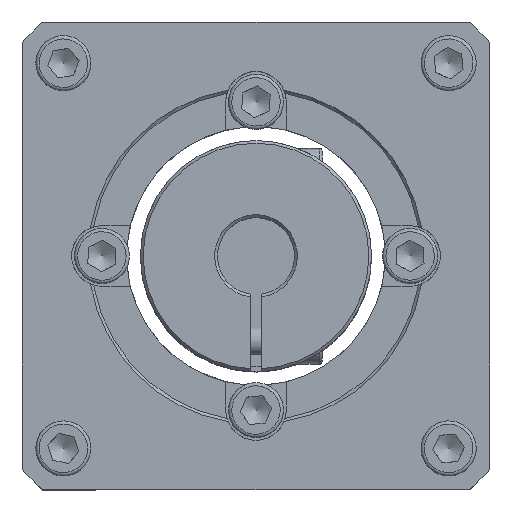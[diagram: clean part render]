
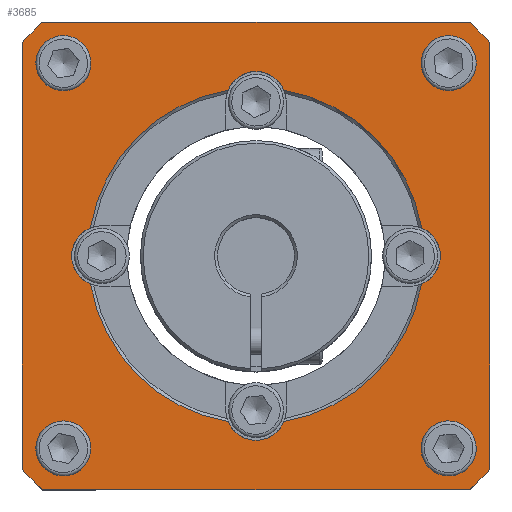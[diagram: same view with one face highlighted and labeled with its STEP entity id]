
A CAD part, top view. The second image highlights one B-rep face of the part: STEP entity #3685.
In plain terms, the highlighted planar face has unit normal (0, 0, 1).
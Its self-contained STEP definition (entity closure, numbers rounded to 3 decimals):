
#212=PLANE('',#4075);
#391=LINE('',#6323,#601);
#392=LINE('',#6325,#602);
#393=LINE('',#6326,#603);
#394=LINE('',#6327,#604);
#601=VECTOR('',#4991,77.46);
#602=VECTOR('',#4994,77.46);
#603=VECTOR('',#4995,77.46);
#604=VECTOR('',#4996,77.46);
#767=FACE_BOUND('',#1343,.T.);
#768=FACE_BOUND('',#1344,.T.);
#769=FACE_BOUND('',#1345,.T.);
#770=FACE_BOUND('',#1346,.T.);
#771=FACE_BOUND('',#1347,.T.);
#1039=FACE_OUTER_BOUND('',#1342,.T.);
#1342=EDGE_LOOP('',(#3144,#3145,#3146,#3147,#3148,#3149,#3150,#3151));
#1343=EDGE_LOOP('',(#3152,#3153,#3154,#3155,#3156,#3157,#3158,#3159));
#1344=EDGE_LOOP('',(#3160));
#1345=EDGE_LOOP('',(#3161));
#1346=EDGE_LOOP('',(#3162));
#1347=EDGE_LOOP('',(#3163));
#1596=CIRCLE('',#4064,57.5);
#1598=CIRCLE('',#4067,57.5);
#1600=CIRCLE('',#4070,57.5);
#1602=CIRCLE('',#4073,57.5);
#1603=CIRCLE('',#4076,30.5);
#1604=CIRCLE('',#4077,5.5);
#1605=CIRCLE('',#4078,30.5);
#1606=CIRCLE('',#4079,5.5);
#1607=CIRCLE('',#4080,30.5);
#1608=CIRCLE('',#4081,5.5);
#1609=CIRCLE('',#4082,30.5);
#1610=CIRCLE('',#4083,5.5);
#1611=CIRCLE('',#4084,2.459);
#1612=CIRCLE('',#4085,2.459);
#1613=CIRCLE('',#4086,2.459);
#1614=CIRCLE('',#4087,2.459);
#1894=VERTEX_POINT('',#6289);
#1895=VERTEX_POINT('',#6291);
#1898=VERTEX_POINT('',#6298);
#1899=VERTEX_POINT('',#6300);
#1902=VERTEX_POINT('',#6307);
#1903=VERTEX_POINT('',#6309);
#1906=VERTEX_POINT('',#6316);
#1907=VERTEX_POINT('',#6318);
#1908=VERTEX_POINT('',#6328);
#1909=VERTEX_POINT('',#6329);
#1910=VERTEX_POINT('',#6331);
#1911=VERTEX_POINT('',#6333);
#1912=VERTEX_POINT('',#6335);
#1913=VERTEX_POINT('',#6337);
#1914=VERTEX_POINT('',#6339);
#1915=VERTEX_POINT('',#6341);
#1916=VERTEX_POINT('',#6344);
#1917=VERTEX_POINT('',#6346);
#1918=VERTEX_POINT('',#6348);
#1919=VERTEX_POINT('',#6350);
#2332=EDGE_CURVE('',#1895,#1894,#1596,.T.);
#2336=EDGE_CURVE('',#1899,#1898,#1598,.T.);
#2340=EDGE_CURVE('',#1903,#1902,#1600,.T.);
#2344=EDGE_CURVE('',#1907,#1906,#1602,.T.);
#2347=EDGE_CURVE('',#1907,#1894,#391,.T.);
#2348=EDGE_CURVE('',#1903,#1906,#392,.T.);
#2349=EDGE_CURVE('',#1899,#1902,#393,.T.);
#2350=EDGE_CURVE('',#1895,#1898,#394,.T.);
#2351=EDGE_CURVE('',#1908,#1909,#1603,.T.);
#2352=EDGE_CURVE('',#1908,#1910,#1604,.T.);
#2353=EDGE_CURVE('',#1911,#1910,#1605,.T.);
#2354=EDGE_CURVE('',#1911,#1912,#1606,.T.);
#2355=EDGE_CURVE('',#1913,#1912,#1607,.T.);
#2356=EDGE_CURVE('',#1913,#1914,#1608,.T.);
#2357=EDGE_CURVE('',#1915,#1914,#1609,.T.);
#2358=EDGE_CURVE('',#1915,#1909,#1610,.T.);
#2359=EDGE_CURVE('',#1916,#1916,#1611,.T.);
#2360=EDGE_CURVE('',#1917,#1917,#1612,.T.);
#2361=EDGE_CURVE('',#1918,#1918,#1613,.T.);
#2362=EDGE_CURVE('',#1919,#1919,#1614,.T.);
#3144=ORIENTED_EDGE('',*,*,#2332,.T.);
#3145=ORIENTED_EDGE('',*,*,#2347,.F.);
#3146=ORIENTED_EDGE('',*,*,#2344,.T.);
#3147=ORIENTED_EDGE('',*,*,#2348,.F.);
#3148=ORIENTED_EDGE('',*,*,#2340,.T.);
#3149=ORIENTED_EDGE('',*,*,#2349,.F.);
#3150=ORIENTED_EDGE('',*,*,#2336,.T.);
#3151=ORIENTED_EDGE('',*,*,#2350,.F.);
#3152=ORIENTED_EDGE('',*,*,#2351,.F.);
#3153=ORIENTED_EDGE('',*,*,#2352,.T.);
#3154=ORIENTED_EDGE('',*,*,#2353,.F.);
#3155=ORIENTED_EDGE('',*,*,#2354,.T.);
#3156=ORIENTED_EDGE('',*,*,#2355,.F.);
#3157=ORIENTED_EDGE('',*,*,#2356,.T.);
#3158=ORIENTED_EDGE('',*,*,#2357,.F.);
#3159=ORIENTED_EDGE('',*,*,#2358,.T.);
#3160=ORIENTED_EDGE('',*,*,#2359,.T.);
#3161=ORIENTED_EDGE('',*,*,#2360,.T.);
#3162=ORIENTED_EDGE('',*,*,#2361,.T.);
#3163=ORIENTED_EDGE('',*,*,#2362,.T.);
#3685=ADVANCED_FACE('',(#1039,#767,#768,#769,#770,#771),#212,.T.);
#4064=AXIS2_PLACEMENT_3D('',#6292,#4961,#4962);
#4067=AXIS2_PLACEMENT_3D('',#6301,#4969,#4970);
#4070=AXIS2_PLACEMENT_3D('',#6310,#4977,#4978);
#4073=AXIS2_PLACEMENT_3D('',#6319,#4985,#4986);
#4075=AXIS2_PLACEMENT_3D('',#6324,#4992,#4993);
#4076=AXIS2_PLACEMENT_3D('',#6330,#4997,#4998);
#4077=AXIS2_PLACEMENT_3D('',#6332,#4999,#5000);
#4078=AXIS2_PLACEMENT_3D('',#6334,#5001,#5002);
#4079=AXIS2_PLACEMENT_3D('',#6336,#5003,#5004);
#4080=AXIS2_PLACEMENT_3D('',#6338,#5005,#5006);
#4081=AXIS2_PLACEMENT_3D('',#6340,#5007,#5008);
#4082=AXIS2_PLACEMENT_3D('',#6342,#5009,#5010);
#4083=AXIS2_PLACEMENT_3D('',#6343,#5011,#5012);
#4084=AXIS2_PLACEMENT_3D('',#6345,#5013,#5014);
#4085=AXIS2_PLACEMENT_3D('',#6347,#5015,#5016);
#4086=AXIS2_PLACEMENT_3D('',#6349,#5017,#5018);
#4087=AXIS2_PLACEMENT_3D('',#6351,#5019,#5020);
#4961=DIRECTION('center_axis',(0.,0.,1.));
#4962=DIRECTION('ref_axis',(0.739,0.674,0.));
#4969=DIRECTION('center_axis',(0.,0.,1.));
#4970=DIRECTION('ref_axis',(0.674,-0.739,0.));
#4977=DIRECTION('center_axis',(0.,0.,1.));
#4978=DIRECTION('ref_axis',(-0.739,-0.674,0.));
#4985=DIRECTION('center_axis',(0.,0.,1.));
#4986=DIRECTION('ref_axis',(-0.674,0.739,0.));
#4991=DIRECTION('',(-1.,0.,0.));
#4992=DIRECTION('center_axis',(0.,0.,1.));
#4993=DIRECTION('ref_axis',(1.,0.,0.));
#4994=DIRECTION('',(0.,-1.,0.));
#4995=DIRECTION('',(1.,0.,0.));
#4996=DIRECTION('',(0.,1.,0.));
#4997=DIRECTION('center_axis',(0.,0.,1.));
#4998=DIRECTION('ref_axis',(-1.,0.,0.));
#4999=DIRECTION('center_axis',(0.,0.,-1.));
#5000=DIRECTION('ref_axis',(0.,1.,0.));
#5001=DIRECTION('center_axis',(0.,0.,1.));
#5002=DIRECTION('ref_axis',(-1.,0.,0.));
#5003=DIRECTION('center_axis',(0.,0.,-1.));
#5004=DIRECTION('ref_axis',(1.,0.,0.));
#5005=DIRECTION('center_axis',(0.,0.,1.));
#5006=DIRECTION('ref_axis',(1.,0.,0.));
#5007=DIRECTION('center_axis',(0.,0.,-1.));
#5008=DIRECTION('ref_axis',(0.,-1.,0.));
#5009=DIRECTION('center_axis',(0.,0.,1.));
#5010=DIRECTION('ref_axis',(1.,0.,0.));
#5011=DIRECTION('center_axis',(0.,0.,-1.));
#5012=DIRECTION('ref_axis',(-1.,0.,0.));
#5013=DIRECTION('center_axis',(0.,0.,-1.));
#5014=DIRECTION('ref_axis',(1.,0.,0.));
#5015=DIRECTION('center_axis',(0.,0.,-1.));
#5016=DIRECTION('ref_axis',(0.,1.,0.));
#5017=DIRECTION('center_axis',(0.,0.,-1.));
#5018=DIRECTION('ref_axis',(-1.,0.,0.));
#5019=DIRECTION('center_axis',(0.,0.,-1.));
#5020=DIRECTION('ref_axis',(0.,-1.,0.));
#6289=CARTESIAN_POINT('',(-38.73,-42.5,17.5));
#6291=CARTESIAN_POINT('',(-42.5,-38.73,17.5));
#6292=CARTESIAN_POINT('Origin',(0.,0.,17.5));
#6298=CARTESIAN_POINT('',(-42.5,38.73,17.5));
#6300=CARTESIAN_POINT('',(-38.73,42.5,17.5));
#6301=CARTESIAN_POINT('Origin',(0.,0.,17.5));
#6307=CARTESIAN_POINT('',(38.73,42.5,17.5));
#6309=CARTESIAN_POINT('',(42.5,38.73,17.5));
#6310=CARTESIAN_POINT('Origin',(0.,0.,17.5));
#6316=CARTESIAN_POINT('',(42.5,-38.73,17.5));
#6318=CARTESIAN_POINT('',(38.73,-42.5,17.5));
#6319=CARTESIAN_POINT('Origin',(0.,0.,17.5));
#6323=CARTESIAN_POINT('',(42.5,-42.5,17.5));
#6324=CARTESIAN_POINT('Origin',(0.,0.,
17.5));
#6325=CARTESIAN_POINT('',(42.5,42.5,17.5));
#6326=CARTESIAN_POINT('',(-42.5,42.5,17.5));
#6327=CARTESIAN_POINT('',(-42.5,-42.5,17.5));
#6328=CARTESIAN_POINT('',(-30.071,-5.095,17.5));
#6329=CARTESIAN_POINT('',(-5.095,-30.071,17.5));
#6330=CARTESIAN_POINT('Origin',(0.,0.,17.5));
#6331=CARTESIAN_POINT('',(-30.071,5.095,17.5));
#6332=CARTESIAN_POINT('Origin',(-28.,0.,17.5));
#6333=CARTESIAN_POINT('',(-5.095,30.071,17.5));
#6334=CARTESIAN_POINT('Origin',(0.,0.,17.5));
#6335=CARTESIAN_POINT('',(5.095,30.071,17.5));
#6336=CARTESIAN_POINT('Origin',(0.,28.,17.5));
#6337=CARTESIAN_POINT('',(30.071,5.095,17.5));
#6338=CARTESIAN_POINT('Origin',(0.,0.,17.5));
#6339=CARTESIAN_POINT('',(30.071,-5.095,17.5));
#6340=CARTESIAN_POINT('Origin',(28.,0.,17.5));
#6341=CARTESIAN_POINT('',(5.095,-30.071,17.5));
#6342=CARTESIAN_POINT('Origin',(0.,0.,17.5));
#6343=CARTESIAN_POINT('Origin',(0.,-28.,17.5));
#6344=CARTESIAN_POINT('',(37.459,35.,17.5));
#6345=CARTESIAN_POINT('Origin',(35.,35.,17.5));
#6346=CARTESIAN_POINT('',(-35.,37.459,17.5));
#6347=CARTESIAN_POINT('Origin',(-35.,35.,17.5));
#6348=CARTESIAN_POINT('',(-37.459,-35.,17.5));
#6349=CARTESIAN_POINT('Origin',(-35.,-35.,17.5));
#6350=CARTESIAN_POINT('',(35.,-37.459,17.5));
#6351=CARTESIAN_POINT('Origin',(35.,-35.,17.5));
